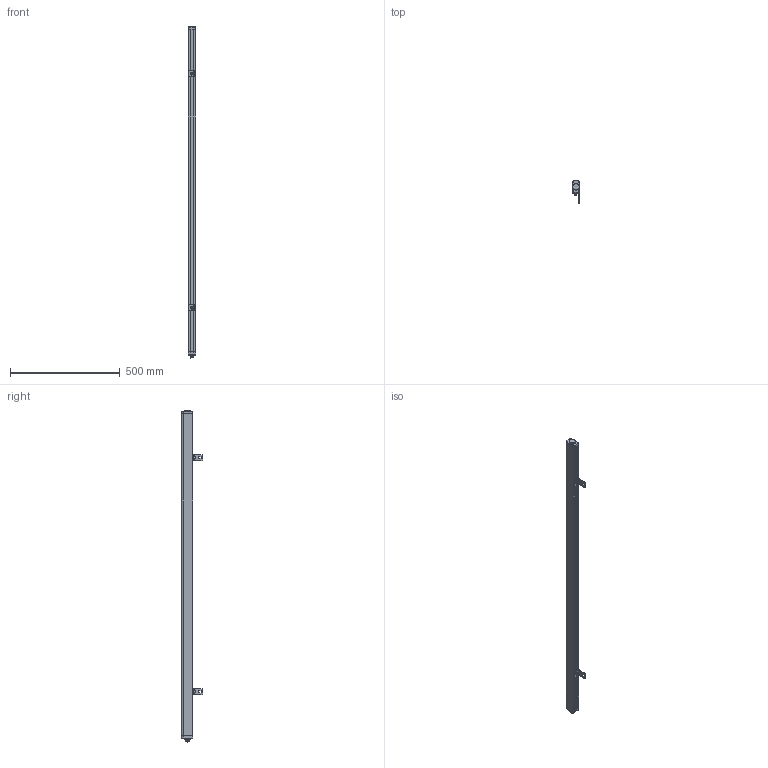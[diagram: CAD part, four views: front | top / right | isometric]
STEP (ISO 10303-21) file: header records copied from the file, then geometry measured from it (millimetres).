
FILE_DESCRIPTION((''),'2;1');
FILE_NAME('ESE8420_ASM','2021-07-12T15:44:40',('18720616900'),(''),'CREO PARAMETRIC BY PTC INC, 2019010','CREO PARAMETRIC BY PTC INC, 2019010','');
FILE_SCHEMA(('CONFIG_CONTROL_DESIGN'));
Length unit declared in the file: millimetre
Products named in the file (15): ESE--00; 000; ESE--000; HKCT2-1-SOLID1; HKCT11-1-SOLID1; 6_10001_ASM; ST-3-120001; L10001; M6-1-00; M6-1--00; M6-8--0001; 00; L1--0001_ASM; ESE8420_ASM
Assembly tree (22 placements, depth 3):
  ESE8420_ASM
    ESE--00
    000
    ESE--000
    ESE--000
    6_10001_ASM
      HKCT2-1-SOLID1
      HKCT11-1-SOLID1
    ST-3-120001  x8
    L1--0001_ASM  x2
      L10001
      M6-1-00
      M6-1--00
      M6-8--0001
      00
Bounding box: 35.3 x 99.3 x 1510.59 mm (x, y, z)
Volume: 2554918.5 mm3; surface area: 389908.1 mm2
Topology: 24 solids, 24 shells, 1203 faces, 3161 edges, 2022 vertices
Faces by surface type: plane 340, cylinder 306, cone 246, bspline 233, torus 64, sphere 14
Entity records: 41666 total; most frequent: CARTESIAN_POINT 27268, ORIENTED_EDGE 3088, DIRECTION 2720, EDGE_CURVE 1544, AXIS2_PLACEMENT_3D 1052, VERTEX_POINT 1019, EDGE_LOOP 661, VECTOR 616
